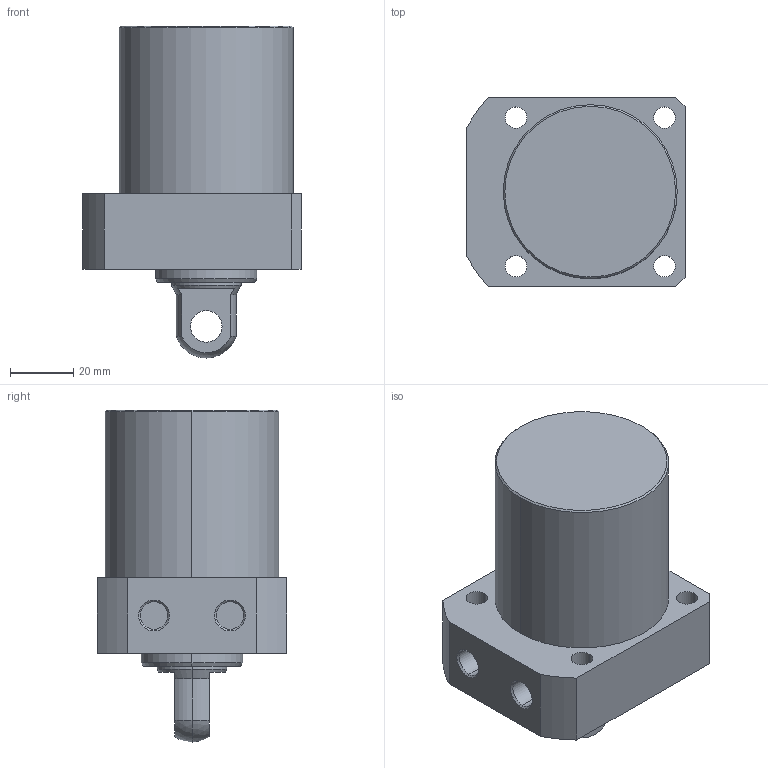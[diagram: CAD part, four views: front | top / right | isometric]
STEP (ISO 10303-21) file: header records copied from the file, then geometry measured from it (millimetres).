
FILE_DESCRIPTION (( 'STEP AP203' ), '1' );
FILE_NAME ('CLLR-055CP-040.STEP', '2019-12-19T08:25:11', ( '' ), ( '' ), 'SwSTEP 2.0', 'SolidWorks 2015', '' );
FILE_SCHEMA (( 'CONFIG_CONTROL_DESIGN' ));
Length unit declared in the file: millimetre
Products named in the file (1): CLLR-055CP-040
Bounding box: 69 x 60 x 105 mm (x, y, z)
Volume: 225168.2 mm3; surface area: 27435.7 mm2
Topology: 1 solids, 1 shells, 59 faces, 139 edges, 89 vertices
Faces by surface type: cylinder 29, plane 18, cone 10, sphere 2
Entity records: 1820 total; most frequent: DIRECTION 329, CARTESIAN_POINT 300, ORIENTED_EDGE 278, EDGE_CURVE 139, AXIS2_PLACEMENT_3D 134, VERTEX_POINT 89, EDGE_LOOP 76, CIRCLE 74
